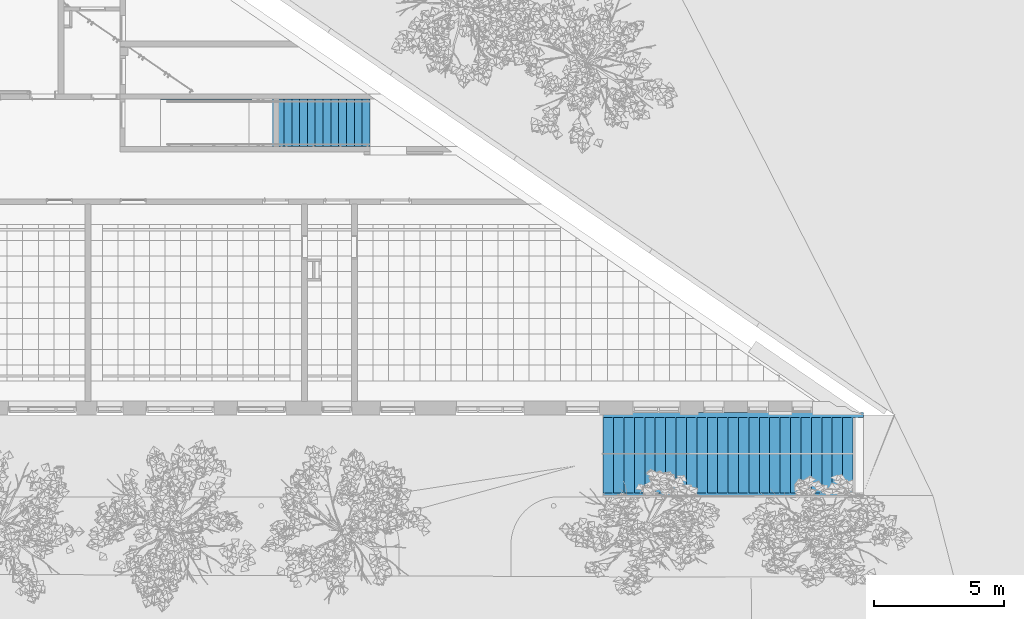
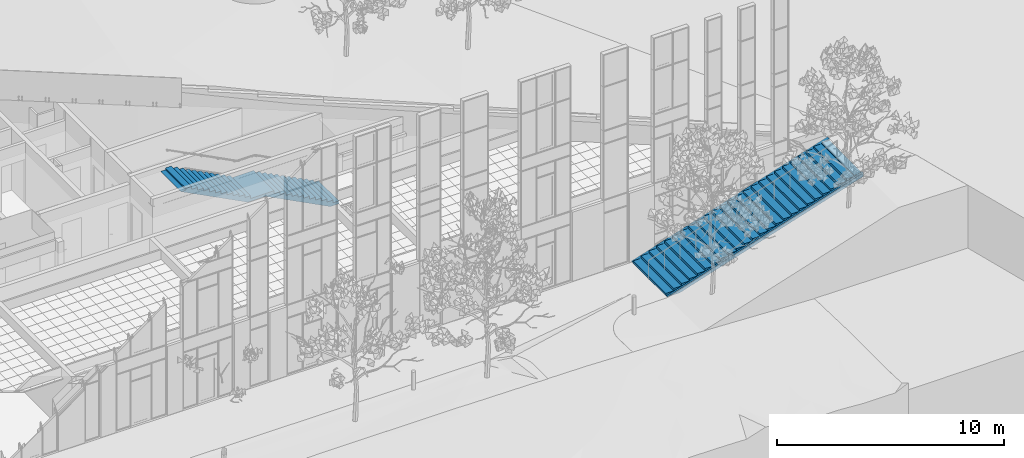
# One storey, part 141 of 246: 2 stairs.
"""IFC2X3 building model written with IfcOpenShell, lengths in millimetres."""

from ifc_helpers import new_model, entity, si_unit, converted_unit, derived_unit, money_unit, direction, frame, origin_with_axes, place, context, subcontext, project, spatial, faceted_brep, material, material_list, element, save


model = new_model("IFC2X3")

# Units and contexts
model_context = context("Model", 3, precision=0.01, world=origin_with_axes(), true_north=direction((0.0, 1.0)))
body_context = subcontext(model_context, "Body", "Model", "MODEL_VIEW")
ifc_project = project(units=[si_unit("LENGTHUNIT", "METRE", prefix="MILLI"), si_unit("AREAUNIT", "SQUARE_METRE"), si_unit("VOLUMEUNIT", "CUBIC_METRE"), converted_unit("PLANEANGLEUNIT", "DEGREE", entity("IfcPlaneAngleMeasure", 0.0174532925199), si_unit("PLANEANGLEUNIT", "RADIAN"), dimensions=[0, 0, 0, 0, 0, 0, 0]), si_unit("SOLIDANGLEUNIT", "STERADIAN"), money_unit("EUR"), converted_unit("TIMEUNIT", "Year", entity("IfcTimeMeasure", 31556926.0), si_unit("TIMEUNIT", "SECOND"), dimensions=[0, 0, 1, 0, 0, 0, 0]), si_unit("MASSUNIT", "GRAM", prefix="KILO"), si_unit("THERMODYNAMICTEMPERATUREUNIT", "DEGREE_CELSIUS"), si_unit("LUMINOUSINTENSITYUNIT", "LUMEN"), si_unit("ENERGYUNIT", "JOULE", prefix="MEGA"), derived_unit("THERMALCONDUCTANCEUNIT", [(si_unit("POWERUNIT", "WATT"), 1), (si_unit("LENGTHUNIT", "METRE"), -1), (si_unit("THERMODYNAMICTEMPERATUREUNIT", "KELVIN"), -1)]), derived_unit("SPECIFICHEATCAPACITYUNIT", [(si_unit("ENERGYUNIT", "JOULE"), 1), (si_unit("MASSUNIT", "GRAM", prefix="KILO"), -1), (si_unit("THERMODYNAMICTEMPERATUREUNIT", "KELVIN"), -1)]), derived_unit("MASSDENSITYUNIT", [(si_unit("MASSUNIT", "GRAM", prefix="KILO"), 1), (si_unit("VOLUMEUNIT", "CUBIC_METRE"), -1)])], contexts=[model_context])

# Site, building, storey
site_placement = place(None, origin_with_axes())
site = spatial("IfcSite", under=ifc_project, at=site_placement, Name="L.Koidula tn 11b", CompositionType="ELEMENT")
building_placement = place(site_placement, origin_with_axes())
building = spatial("IfcBuilding", under=site, at=building_placement, Name="Rakvere Riigigümnaasium", CompositionType="ELEMENT")
storey_placement = place(building_placement, origin_with_axes())
storey = spatial("IfcBuildingStorey", under=building, at=storey_placement, Name="1.korrus 0,00", CompositionType="ELEMENT", Elevation=0.0)

# Stairs
ifc_material = material(Name="Betoon")
stair_1_placement = place(storey_placement, frame((94552.4006498, 5070.45553887, -20.0), z_axis=(0.0, 0.0, 1.0), x_axis=(1.0, 0.0, 0.0)))
element("IfcStair", 1, at=stair_1_placement, inside=storey, material=ifc_material, Name="VTR-02", ShapeType="NOTDEFINED", context=body_context, shape_type="Brep", body=[
    faceted_brep([(9600.0, -184.397104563, 3120.0), (9680.0, -184.397104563, 3120.0), (9750.22448817, -184.397104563, 3120.0), (8.97952662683, -184.397104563, 0.0), (0.0, -184.397104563, 0.0), (0.0, -184.397104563, 128.0), (400.0, -184.397104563, 128.0), (400.0, -184.397104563, 256.0), (800.0, -184.397104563, 256.0), (800.0, -184.397104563, 384.0), (1200.0, -184.397104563, 384.0), (1200.0, -184.397104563, 512.0), (1600.0, -184.397104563, 512.0), (1600.0, -184.397104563, 640.0), (2000.0, -184.397104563, 640.0), (2000.0, -184.397104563, 768.0), (2400.0, -184.397104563, 768.0), (2400.0, -184.397104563, 896.0), (2800.0, -184.397104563, 896.0), (2800.0, -184.397104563, 1024.0), (3200.0, -184.397104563, 1024.0), (3200.0, -184.397104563, 1152.0), (3600.0, -184.397104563, 1152.0), (3600.0, -184.397104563, 1280.0), (4000.0, -184.397104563, 1280.0), (4000.0, -184.397104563, 1408.0), (4400.0, -184.397104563, 1408.0), (4400.0, -184.397104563, 1536.0), (4800.0, -184.397104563, 1536.0), (4800.0, -184.397104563, 1664.0), (5200.0, -184.397104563, 1664.0), (5200.0, -184.397104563, 1792.0), (5600.0, -184.397104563, 1792.0), (5600.0, -184.397104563, 1920.0), (6000.0, -184.397104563, 1920.0), (6000.0, -184.397104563, 2048.0), (6400.0, -184.397104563, 2048.0), (6400.0, -184.397104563, 2176.0), (6800.0, -184.397104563, 2176.0), (6800.0, -184.397104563, 2304.0), (7200.0, -184.397104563, 2304.0), (7200.0, -184.397104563, 2432.0), (7600.0, -184.397104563, 2432.0), (7600.0, -184.397104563, 2560.0), (8000.0, -184.397104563, 2560.0), (8000.0, -184.397104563, 2688.0), (8400.0, -184.397104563, 2688.0), (8400.0, -184.397104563, 2816.0), (8800.0, -184.397104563, 2816.0), (8800.0, -184.397104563, 2944.0), (9200.0, -184.397104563, 2944.0), (9200.0, -184.397104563, 3072.0), (9600.0, -184.397104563, 3072.0), (9600.0, -3084.0, 3120.0), (9680.0, -3084.0, 3120.0), (9750.22448817, -3084.0, 3120.0), (10000.0, -3084.0, 3120.0), (10000.0, -184.397104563, 3120.0), (10000.0, -184.397104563, 3200.0), (10000.0, 0.0, 3200.0), (8.97952662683, 0.0, 0.0), (656.22023742, -3184.0, 0.0), (8.97952662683, -3184.0, 0.0), (8.97952662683, -3084.0, 0.0), (0.0, -3084.0, 0.0), (656.22023742, 0.0, 0.0), (0.0, -3084.0, 128.0), (400.0, -3084.0, 128.0), (400.0, -3084.0, 256.0), (800.0, -3084.0, 256.0), (800.0, -3084.0, 384.0), (1200.0, -3084.0, 384.0), (1200.0, -3084.0, 512.0), (1600.0, -3084.0, 512.0), (1600.0, -3084.0, 640.0), (2000.0, -3084.0, 640.0), (2000.0, -3084.0, 768.0), (2400.0, -3084.0, 768.0), (2400.0, -3084.0, 896.0), (2800.0, -3084.0, 896.0), (2800.0, -3084.0, 1024.0), (3200.0, -3084.0, 1024.0), (3200.0, -3084.0, 1152.0), (3600.0, -3084.0, 1152.0), (3600.0, -3084.0, 1280.0), (4000.0, -3084.0, 1280.0), (4000.0, -3084.0, 1408.0), (4400.0, -3084.0, 1408.0), (4400.0, -3084.0, 1536.0), (4800.0, -3084.0, 1536.0), (4800.0, -3084.0, 1664.0), (5200.0, -3084.0, 1664.0), (5200.0, -3084.0, 1792.0), (5600.0, -3084.0, 1792.0), (5600.0, -3084.0, 1920.0), (6000.0, -3084.0, 1920.0), (6000.0, -3084.0, 2048.0), (6400.0, -3084.0, 2048.0), (6400.0, -3084.0, 2176.0), (6800.0, -3084.0, 2176.0), (6800.0, -3084.0, 2304.0), (7200.0, -3084.0, 2304.0), (7200.0, -3084.0, 2432.0), (7600.0, -3084.0, 2432.0), (7600.0, -3084.0, 2560.0), (8000.0, -3084.0, 2560.0), (8000.0, -3084.0, 2688.0), (8400.0, -3084.0, 2688.0), (8400.0, -3084.0, 2816.0), (8800.0, -3084.0, 2816.0), (8800.0, -3084.0, 2944.0), (9200.0, -3084.0, 2944.0), (9200.0, -3084.0, 3072.0), (9600.0, -3084.0, 3072.0), (10000.0, -3084.0, 3200.0), (10000.0, -3184.0, 3200.0), (10000.0, -3184.0, 2990.00952403), (10000.0, 0.0, 2990.00952403), (800.0, 0.0, 46.0095240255), (720.0, 0.0, 20.4095240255), (9900.0, 0.0, 2958.00952403), (9800.0, 0.0, 2926.00952403), (9700.0, 0.0, 2894.00952403), (9600.0, 0.0, 2862.00952403), (9520.0, 0.0, 2836.40952403), (9440.0, 0.0, 2810.80952403), (9360.0, 0.0, 2785.20952403), (9280.0, 0.0, 2759.60952403), (9200.0, 0.0, 2734.00952403), (9120.0, 0.0, 2708.40952403), (9040.0, 0.0, 2682.80952403), (8960.0, 0.0, 2657.20952403), (8880.0, 0.0, 2631.60952403), (8800.0, 0.0, 2606.00952403), (8720.0, 0.0, 2580.40952403), (8640.0, 0.0, 2554.80952403), (8560.0, 0.0, 2529.20952403), (8480.0, 0.0, 2503.60952403), (8400.0, 0.0, 2478.00952403), (8320.0, 0.0, 2452.40952403), (8240.0, 0.0, 2426.80952403), (8160.0, 0.0, 2401.20952403), (8080.0, 0.0, 2375.60952403), (8000.0, 0.0, 2350.00952403), (7920.0, 0.0, 2324.40952403), (7840.0, 0.0, 2298.80952403), (7760.0, 0.0, 2273.20952403), (7680.0, 0.0, 2247.60952403), (7600.0, 0.0, 2222.00952403), (7520.0, 0.0, 2196.40952403), (7440.0, 0.0, 2170.80952403), (7360.0, 0.0, 2145.20952403), (7280.0, 0.0, 2119.60952403), (7200.0, 0.0, 2094.00952403), (7100.0, 0.0, 2062.00952403), (7000.0, 0.0, 2030.00952403), (6900.0, 0.0, 1998.00952403), (6800.0, 0.0, 1966.00952403), (6720.0, 0.0, 1940.40952403), (6640.0, 0.0, 1914.80952403), (6560.0, 0.0, 1889.20952403), (6480.0, 0.0, 1863.60952403), (6400.0, 0.0, 1838.00952403), (6320.0, 0.0, 1812.40952403), (6240.0, 0.0, 1786.80952403), (6160.0, 0.0, 1761.20952403), (6080.0, 0.0, 1735.60952403), (6000.0, 0.0, 1710.00952403), (5900.0, 0.0, 1678.00952403), (5800.0, 0.0, 1646.00952403), (5700.0, 0.0, 1614.00952403), (5600.0, 0.0, 1582.00952403), (5520.0, 0.0, 1556.40952403), (5440.0, 0.0, 1530.80952403), (5360.0, 0.0, 1505.20952403), (5280.0, 0.0, 1479.60952403), (5200.0, 0.0, 1454.00952403), (5100.0, 0.0, 1422.00952403), (5000.0, 0.0, 1390.00952403), (4900.0, 0.0, 1358.00952403), (4800.0, 0.0, 1326.00952403), (4720.0, 0.0, 1300.40952403), (4640.0, 0.0, 1274.80952403), (4560.0, 0.0, 1249.20952403), (4480.0, 0.0, 1223.60952403), (4400.0, 0.0, 1198.00952403), (4320.0, 0.0, 1172.40952403), (4240.0, 0.0, 1146.80952403), (4160.0, 0.0, 1121.20952403), (4080.0, 0.0, 1095.60952403), (4000.0, 0.0, 1070.00952403), (3920.0, 0.0, 1044.40952403), (3840.0, 0.0, 1018.80952403), (3760.0, 0.0, 993.209524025), (3680.0, 0.0, 967.609524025), (3600.0, 0.0, 942.009524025), (3500.0, 0.0, 910.009524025), (3400.0, 0.0, 878.009524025), (3300.0, 0.0, 846.009524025), (3200.0, 0.0, 814.009524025), (3100.0, 0.0, 782.009524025), (3000.0, 0.0, 750.009524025), (2900.0, 0.0, 718.009524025), (2800.0, 0.0, 686.009524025), (2720.0, 0.0, 660.409524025), (2640.0, 0.0, 634.809524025), (2560.0, 0.0, 609.209524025), (2480.0, 0.0, 583.609524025), (2400.0, 0.0, 558.009524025), (2320.0, 0.0, 532.409524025), (2240.0, 0.0, 506.809524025), (2160.0, 0.0, 481.209524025), (2080.0, 0.0, 455.609524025), (2000.0, 0.0, 430.009524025), (1920.0, 0.0, 404.409524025), (1840.0, 0.0, 378.809524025), (1760.0, 0.0, 353.209524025), (1680.0, 0.0, 327.609524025), (1600.0, 0.0, 302.009524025), (1520.0, 0.0, 276.409524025), (1440.0, 0.0, 250.809524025), (1360.0, 0.0, 225.209524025), (1280.0, 0.0, 199.609524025), (1200.0, 0.0, 174.009524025), (1100.0, 0.0, 142.009524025), (1000.0, 0.0, 110.009524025), (900.0, 0.0, 78.0095240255), (9900.0, -3184.0, 2958.00952403), (720.0, -3184.0, 20.4095240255), (800.0, -3184.0, 46.0095240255), (900.0, -3184.0, 78.0095240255), (1000.0, -3184.0, 110.009524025), (1100.0, -3184.0, 142.009524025), (1200.0, -3184.0, 174.009524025), (1280.0, -3184.0, 199.609524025), (1360.0, -3184.0, 225.209524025), (1440.0, -3184.0, 250.809524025), (1520.0, -3184.0, 276.409524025), (1600.0, -3184.0, 302.009524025), (1680.0, -3184.0, 327.609524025), (1760.0, -3184.0, 353.209524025), (1840.0, -3184.0, 378.809524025), (1920.0, -3184.0, 404.409524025), (2000.0, -3184.0, 430.009524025), (2080.0, -3184.0, 455.609524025), (2160.0, -3184.0, 481.209524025), (2240.0, -3184.0, 506.809524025), (2320.0, -3184.0, 532.409524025), (2400.0, -3184.0, 558.009524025), (2480.0, -3184.0, 583.609524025), (2560.0, -3184.0, 609.209524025), (2640.0, -3184.0, 634.809524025), (2720.0, -3184.0, 660.409524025), (2800.0, -3184.0, 686.009524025), (2900.0, -3184.0, 718.009524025), (3000.0, -3184.0, 750.009524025), (3100.0, -3184.0, 782.009524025), (3200.0, -3184.0, 814.009524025), (3300.0, -3184.0, 846.009524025), (3400.0, -3184.0, 878.009524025), (3500.0, -3184.0, 910.009524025), (3600.0, -3184.0, 942.009524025), (3680.0, -3184.0, 967.609524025), (3760.0, -3184.0, 993.209524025), (3840.0, -3184.0, 1018.80952403), (3920.0, -3184.0, 1044.40952403), (4000.0, -3184.0, 1070.00952403), (4080.0, -3184.0, 1095.60952403), (4160.0, -3184.0, 1121.20952403), (4240.0, -3184.0, 1146.80952403), (4320.0, -3184.0, 1172.40952403), (4400.0, -3184.0, 1198.00952403), (4480.0, -3184.0, 1223.60952403), (4560.0, -3184.0, 1249.20952403), (4640.0, -3184.0, 1274.80952403), (4720.0, -3184.0, 1300.40952403), (4800.0, -3184.0, 1326.00952403), (4900.0, -3184.0, 1358.00952403), (5000.0, -3184.0, 1390.00952403), (5100.0, -3184.0, 1422.00952403), (5200.0, -3184.0, 1454.00952403), (5280.0, -3184.0, 1479.60952403), (5360.0, -3184.0, 1505.20952403), (5440.0, -3184.0, 1530.80952403), (5520.0, -3184.0, 1556.40952403), (5600.0, -3184.0, 1582.00952403), (5700.0, -3184.0, 1614.00952403), (5800.0, -3184.0, 1646.00952403), (5900.0, -3184.0, 1678.00952403), (6000.0, -3184.0, 1710.00952403), (6080.0, -3184.0, 1735.60952403), (6160.0, -3184.0, 1761.20952403), (6240.0, -3184.0, 1786.80952403), (6320.0, -3184.0, 1812.40952403), (6400.0, -3184.0, 1838.00952403), (6480.0, -3184.0, 1863.60952403), (6560.0, -3184.0, 1889.20952403), (6640.0, -3184.0, 1914.80952403), (6720.0, -3184.0, 1940.40952403), (6800.0, -3184.0, 1966.00952403), (6900.0, -3184.0, 1998.00952403), (7000.0, -3184.0, 2030.00952403), (7100.0, -3184.0, 2062.00952403), (7200.0, -3184.0, 2094.00952403), (7280.0, -3184.0, 2119.60952403), (7360.0, -3184.0, 2145.20952403), (7440.0, -3184.0, 2170.80952403), (7520.0, -3184.0, 2196.40952403), (7600.0, -3184.0, 2222.00952403), (7680.0, -3184.0, 2247.60952403), (7760.0, -3184.0, 2273.20952403), (7840.0, -3184.0, 2298.80952403), (7920.0, -3184.0, 2324.40952403), (8000.0, -3184.0, 2350.00952403), (8080.0, -3184.0, 2375.60952403), (8160.0, -3184.0, 2401.20952403), (8240.0, -3184.0, 2426.80952403), (8320.0, -3184.0, 2452.40952403), (8400.0, -3184.0, 2478.00952403), (8480.0, -3184.0, 2503.60952403), (8560.0, -3184.0, 2529.20952403), (8640.0, -3184.0, 2554.80952403), (8720.0, -3184.0, 2580.40952403), (8800.0, -3184.0, 2606.00952403), (8880.0, -3184.0, 2631.60952403), (8960.0, -3184.0, 2657.20952403), (9040.0, -3184.0, 2682.80952403), (9120.0, -3184.0, 2708.40952403), (9200.0, -3184.0, 2734.00952403), (9280.0, -3184.0, 2759.60952403), (9360.0, -3184.0, 2785.20952403), (9440.0, -3184.0, 2810.80952403), (9520.0, -3184.0, 2836.40952403), (9600.0, -3184.0, 2862.00952403), (9700.0, -3184.0, 2894.00952403), (9800.0, -3184.0, 2926.00952403)], [[[0, 1, 2, 3, 4, 5, 6, 7, 8, 9, 10, 11, 12, 13, 14, 15, 16, 17, 18, 19, 20, 21, 22, 23, 24, 25, 26, 27, 28, 29, 30, 31, 32, 33, 34, 35, 36, 37, 38, 39, 40, 41, 42, 43, 44, 45, 46, 47, 48, 49, 50, 51, 52]], [[1, 0, 53, 54, 55, 56, 57, 2]], [[3, 2, 58, 59, 60]], [[61, 62, 63, 64, 4, 3, 60, 65]], [[5, 4, 64, 66]], [[6, 5, 66, 67]], [[7, 6, 67, 68]], [[8, 7, 68, 69]], [[9, 8, 69, 70]], [[10, 9, 70, 71]], [[11, 10, 71, 72]], [[12, 11, 72, 73]], [[13, 12, 73, 74]], [[14, 13, 74, 75]], [[15, 14, 75, 76]], [[16, 15, 76, 77]], [[17, 16, 77, 78]], [[18, 17, 78, 79]], [[19, 18, 79, 80]], [[20, 19, 80, 81]], [[21, 20, 81, 82]], [[22, 21, 82, 83]], [[23, 22, 83, 84]], [[24, 23, 84, 85]], [[25, 24, 85, 86]], [[26, 25, 86, 87]], [[27, 26, 87, 88]], [[28, 27, 88, 89]], [[29, 28, 89, 90]], [[30, 29, 90, 91]], [[31, 30, 91, 92]], [[32, 31, 92, 93]], [[33, 32, 93, 94]], [[34, 33, 94, 95]], [[35, 34, 95, 96]], [[36, 35, 96, 97]], [[37, 36, 97, 98]], [[38, 37, 98, 99]], [[39, 38, 99, 100]], [[40, 39, 100, 101]], [[41, 40, 101, 102]], [[42, 41, 102, 103]], [[43, 42, 103, 104]], [[44, 43, 104, 105]], [[45, 44, 105, 106]], [[46, 45, 106, 107]], [[47, 46, 107, 108]], [[48, 47, 108, 109]], [[49, 48, 109, 110]], [[50, 49, 110, 111]], [[51, 50, 111, 112]], [[52, 51, 112, 113]], [[53, 0, 52, 113]], [[54, 53, 113, 112, 111, 110, 109, 108, 107, 106, 105, 104, 103, 102, 101, 100, 99, 98, 97, 96, 95, 94, 93, 92, 91, 90, 89, 88, 87, 86, 85, 84, 83, 82, 81, 80, 79, 78, 77, 76, 75, 74, 73, 72, 71, 70, 69, 68, 67, 66, 64, 63, 55]], [[56, 55, 114]], [[57, 56, 114, 115, 116, 117, 59, 58]], [[2, 57, 58]], [[118, 119, 65, 60, 59, 117, 120, 121, 122, 123, 124, 125, 126, 127, 128, 129, 130, 131, 132, 133, 134, 135, 136, 137, 138, 139, 140, 141, 142, 143, 144, 145, 146, 147, 148, 149, 150, 151, 152, 153, 154, 155, 156, 157, 158, 159, 160, 161, 162, 163, 164, 165, 166, 167, 168, 169, 170, 171, 172, 173, 174, 175, 176, 177, 178, 179, 180, 181, 182, 183, 184, 185, 186, 187, 188, 189, 190, 191, 192, 193, 194, 195, 196, 197, 198, 199, 200, 201, 202, 203, 204, 205, 206, 207, 208, 209, 210, 211, 212, 213, 214, 215, 216, 217, 218, 219, 220, 221, 222, 223, 224, 225, 226]], [[227, 116, 115, 62, 61, 228, 229, 230, 231, 232, 233, 234, 235, 236, 237, 238, 239, 240, 241, 242, 243, 244, 245, 246, 247, 248, 249, 250, 251, 252, 253, 254, 255, 256, 257, 258, 259, 260, 261, 262, 263, 264, 265, 266, 267, 268, 269, 270, 271, 272, 273, 274, 275, 276, 277, 278, 279, 280, 281, 282, 283, 284, 285, 286, 287, 288, 289, 290, 291, 292, 293, 294, 295, 296, 297, 298, 299, 300, 301, 302, 303, 304, 305, 306, 307, 308, 309, 310, 311, 312, 313, 314, 315, 316, 317, 318, 319, 320, 321, 322, 323, 324, 325, 326, 327, 328, 329, 330, 331, 332, 333, 334, 335]], [[115, 114, 55, 63, 62]], [[61, 65, 119, 228]], [[120, 117, 116, 227]], [[228, 119, 118, 229]], [[335, 121, 120, 227]], [[334, 122, 121, 335]], [[333, 123, 122, 334]], [[332, 124, 123, 333]], [[331, 125, 124, 332]], [[330, 126, 125, 331]], [[329, 127, 126, 330]], [[328, 128, 127, 329]], [[327, 129, 128, 328]], [[326, 130, 129, 327]], [[325, 131, 130, 326]], [[324, 132, 131, 325]], [[323, 133, 132, 324]], [[322, 134, 133, 323]], [[321, 135, 134, 322]], [[320, 136, 135, 321]], [[319, 137, 136, 320]], [[318, 138, 137, 319]], [[317, 139, 138, 318]], [[316, 140, 139, 317]], [[315, 141, 140, 316]], [[314, 142, 141, 315]], [[313, 143, 142, 314]], [[312, 144, 143, 313]], [[311, 145, 144, 312]], [[310, 146, 145, 311]], [[309, 147, 146, 310]], [[308, 148, 147, 309]], [[307, 149, 148, 308]], [[306, 150, 149, 307]], [[305, 151, 150, 306]], [[304, 152, 151, 305]], [[303, 153, 152, 304]], [[302, 154, 153, 303]], [[301, 155, 154, 302]], [[300, 156, 155, 301]], [[299, 157, 156, 300]], [[298, 158, 157, 299]], [[297, 159, 158, 298]], [[296, 160, 159, 297]], [[295, 161, 160, 296]], [[294, 162, 161, 295]], [[293, 163, 162, 294]], [[292, 164, 163, 293]], [[291, 165, 164, 292]], [[290, 166, 165, 291]], [[289, 167, 166, 290]], [[288, 168, 167, 289]], [[287, 169, 168, 288]], [[286, 170, 169, 287]], [[285, 171, 170, 286]], [[284, 172, 171, 285]], [[283, 173, 172, 284]], [[282, 174, 173, 283]], [[281, 175, 174, 282]], [[280, 176, 175, 281]], [[279, 177, 176, 280]], [[278, 178, 177, 279]], [[277, 179, 178, 278]], [[276, 180, 179, 277]], [[275, 181, 180, 276]], [[274, 182, 181, 275]], [[273, 183, 182, 274]], [[272, 184, 183, 273]], [[271, 185, 184, 272]], [[270, 186, 185, 271]], [[269, 187, 186, 270]], [[268, 188, 187, 269]], [[267, 189, 188, 268]], [[266, 190, 189, 267]], [[265, 191, 190, 266]], [[264, 192, 191, 265]], [[263, 193, 192, 264]], [[262, 194, 193, 263]], [[261, 195, 194, 262]], [[260, 196, 195, 261]], [[259, 197, 196, 260]], [[258, 198, 197, 259]], [[257, 199, 198, 258]], [[256, 200, 199, 257]], [[255, 201, 200, 256]], [[254, 202, 201, 255]], [[253, 203, 202, 254]], [[252, 204, 203, 253]], [[251, 205, 204, 252]], [[250, 206, 205, 251]], [[249, 207, 206, 250]], [[248, 208, 207, 249]], [[247, 209, 208, 248]], [[246, 210, 209, 247]], [[245, 211, 210, 246]], [[244, 212, 211, 245]], [[243, 213, 212, 244]], [[242, 214, 213, 243]], [[241, 215, 214, 242]], [[240, 216, 215, 241]], [[239, 217, 216, 240]], [[238, 218, 217, 239]], [[237, 219, 218, 238]], [[236, 220, 219, 237]], [[235, 221, 220, 236]], [[234, 222, 221, 235]], [[233, 223, 222, 234]], [[232, 224, 223, 233]], [[231, 225, 224, 232]], [[230, 226, 225, 231]], [[229, 118, 226, 230]]]),
])
ifc_material_list = material_list([ifc_material, ifc_material, ifc_material])
stair_2_placement = place(storey_placement, frame((85589.9999916, 17110.4555123, 0.0), z_axis=(0.0, 0.0, 1.0), x_axis=(-1.0, 0.0, 0.0)))
element("IfcStair", 2, at=stair_2_placement, inside=storey, material=ifc_material_list, Name="TR-03", ShapeType="NOTDEFINED", context=body_context, shape_type="Brep", body=[
    faceted_brep([(3300.0, 0.0, 1705.0), (3300.0, 1809.99920337, 1705.0), (3000.0, 1809.99920337, 1705.0), (3000.0, 0.0, 1705.0), (3300.0, 0.0, 1710.0), (3300.0, 1809.99920337, 1710.0), (3300.0, 1809.99920337, 1479.8827466), (3200.0, 1809.99920337, 1428.21607993), (3100.0, 1809.99920337, 1376.54941327), (3000.0, 1809.99920337, 1324.8827466), (2925.0, 1809.99920337, 1286.1327466), (2850.0, 1809.99920337, 1247.3827466), (2775.0, 1809.99920337, 1208.6327466), (2700.0, 1809.99920337, 1169.8827466), (2600.0, 1809.99920337, 1118.21607993), (2500.0, 1809.99920337, 1066.54941327), (2400.0, 1809.99920337, 1014.8827466), (2300.0, 1809.99920337, 963.216079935), (2200.0, 1809.99920337, 911.549413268), (2100.0, 1809.99920337, 859.882746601), (2025.0, 1809.99920337, 821.132746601), (1950.0, 1809.99920337, 782.382746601), (1875.0, 1809.99920337, 743.632746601), (1800.0, 1809.99920337, 704.882746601), (1725.0, 1809.99920337, 666.132746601), (1650.0, 1809.99920337, 627.382746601), (1575.0, 1809.99920337, 588.632746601), (1500.0, 1809.99920337, 549.882746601), (1400.0, 1809.99920337, 498.216079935), (1300.0, 1809.99920337, 446.549413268), (1200.0, 1809.99920337, 394.882746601), (1125.0, 1809.99920337, 356.132746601), (1100.0, 1809.99920337, 343.216079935), (1050.0, 1809.99920337, 317.382746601), (1000.0, 1809.99920337, 291.549413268), (975.0, 1809.99920337, 278.632746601), (900.0, 1809.99920337, 239.882746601), (825.0, 1809.99920337, 201.132746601), (800.0, 1809.99920337, 188.216079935), (750.0, 1809.99920337, 162.382746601), (700.0, 1809.99920337, 136.549413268), (675.0, 1809.99920337, 123.632746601), (600.0, 1809.99920337, 84.8827466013), (525.0, 1809.99920337, 46.1327466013), (500.0, 1809.99920337, 33.2160799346), (450.0, 1809.99920337, 7.38274660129), (435.71081303, 1809.99920337, 0.0), (0.0, 1809.99920337, 0.0), (0.0, 1809.99920337, 155.0), (300.0, 1809.99920337, 155.0), (300.0, 1809.99920337, 310.0), (600.0, 1809.99920337, 310.0), (600.0, 1809.99920337, 465.0), (900.0, 1809.99920337, 465.0), (900.0, 1809.99920337, 620.0), (1200.0, 1809.99920337, 620.0), (1200.0, 1809.99920337, 775.0), (1500.0, 1809.99920337, 775.0), (1500.0, 1809.99920337, 930.0), (1800.0, 1809.99920337, 930.0), (1800.0, 1809.99920337, 1085.0), (2100.0, 1809.99920337, 1085.0), (2100.0, 1809.99920337, 1240.0), (2400.0, 1809.99920337, 1240.0), (2400.0, 1809.99920337, 1395.0), (2700.0, 1809.99920337, 1395.0), (2700.0, 1809.99920337, 1550.0), (3000.0, 1809.99920337, 1550.0), (3745.38823238, 1809.99920337, 1710.0), (3000.0, 0.0, 1550.0), (2700.0, 0.0, 1550.0), (2700.0, 0.0, 1395.0), (2400.0, 0.0, 1395.0), (2400.0, 0.0, 1240.0), (2100.0, 0.0, 1240.0), (2100.0, 0.0, 1085.0), (1800.0, 0.0, 1085.0), (1800.0, 0.0, 930.0), (1500.0, 0.0, 930.0), (1500.0, 0.0, 775.0), (1200.0, 0.0, 775.0), (1200.0, 0.0, 620.0), (900.0, 0.0, 620.0), (900.0, 0.0, 465.0), (600.0, 0.0, 465.0), (600.0, 0.0, 310.0), (300.0, 0.0, 310.0), (300.0, 0.0, 155.0), (0.0, 0.0, 155.0), (0.0, 0.0, 0.0), (435.71081303, 0.0, 0.0), (450.0, 0.0, 7.38274660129), (500.0, 0.0, 33.2160799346), (525.0, 0.0, 46.1327466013), (600.0, 0.0, 84.8827466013), (675.0, 0.0, 123.632746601), (700.0, 0.0, 136.549413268), (750.0, 0.0, 162.382746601), (800.0, 0.0, 188.216079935), (825.0, 0.0, 201.132746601), (900.0, 0.0, 239.882746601), (975.0, 0.0, 278.632746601), (1000.0, 0.0, 291.549413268), (1050.0, 0.0, 317.382746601), (1100.0, 0.0, 343.216079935), (1125.0, 0.0, 356.132746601), (1200.0, 0.0, 394.882746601), (1300.0, 0.0, 446.549413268), (1400.0, 0.0, 498.216079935), (1500.0, 0.0, 549.882746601), (1575.0, 0.0, 588.632746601), (1650.0, 0.0, 627.382746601), (1725.0, 0.0, 666.132746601), (1800.0, 0.0, 704.882746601), (1875.0, 0.0, 743.632746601), (1950.0, 0.0, 782.382746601), (2025.0, 0.0, 821.132746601), (2100.0, 0.0, 859.882746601), (2200.0, 0.0, 911.549413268), (2300.0, 0.0, 963.216079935), (2400.0, 0.0, 1014.8827466), (2500.0, 0.0, 1066.54941327), (2600.0, 0.0, 1118.21607993), (2700.0, 0.0, 1169.8827466), (2775.0, 0.0, 1208.6327466), (2850.0, 0.0, 1247.3827466), (2925.0, 0.0, 1286.1327466), (3000.0, 0.0, 1324.8827466), (3100.0, 0.0, 1376.54941327), (3200.0, 0.0, 1428.21607993), (3300.0, 0.0, 1479.8827466), (3745.38823238, 0.0, 1710.0)], [[[0, 1, 2, 3]], [[1, 0, 4, 5]], [[6, 7, 8, 9, 10, 11, 12, 13, 14, 15, 16, 17, 18, 19, 20, 21, 22, 23, 24, 25, 26, 27, 28, 29, 30, 31, 32, 33, 34, 35, 36, 37, 38, 39, 40, 41, 42, 43, 44, 45, 46, 47, 48, 49, 50, 51, 52, 53, 54, 55, 56, 57, 58, 59, 60, 61, 62, 63, 64, 65, 66, 67, 2, 1, 5, 68]], [[3, 2, 67, 69]], [[0, 3, 69, 70, 71, 72, 73, 74, 75, 76, 77, 78, 79, 80, 81, 82, 83, 84, 85, 86, 87, 88, 89, 90, 91, 92, 93, 94, 95, 96, 97, 98, 99, 100, 101, 102, 103, 104, 105, 106, 107, 108, 109, 110, 111, 112, 113, 114, 115, 116, 117, 118, 119, 120, 121, 122, 123, 124, 125, 126, 127, 128, 129, 130, 131, 4]], [[5, 4, 131, 68]], [[130, 129, 7, 6, 68, 131]], [[128, 8, 7, 129]], [[127, 9, 8, 128]], [[126, 10, 9, 127]], [[125, 11, 10, 126]], [[124, 12, 11, 125]], [[123, 13, 12, 124]], [[122, 14, 13, 123]], [[121, 15, 14, 122]], [[120, 16, 15, 121]], [[119, 17, 16, 120]], [[118, 18, 17, 119]], [[117, 19, 18, 118]], [[116, 20, 19, 117]], [[115, 21, 20, 116]], [[114, 22, 21, 115]], [[113, 23, 22, 114]], [[112, 24, 23, 113]], [[111, 25, 24, 112]], [[110, 26, 25, 111]], [[109, 27, 26, 110]], [[108, 28, 27, 109]], [[107, 29, 28, 108]], [[106, 30, 29, 107]], [[105, 31, 30, 106]], [[104, 32, 31, 105]], [[103, 33, 32, 104]], [[102, 34, 33, 103]], [[101, 35, 34, 102]], [[100, 36, 35, 101]], [[99, 37, 36, 100]], [[98, 38, 37, 99]], [[97, 39, 38, 98]], [[96, 40, 39, 97]], [[95, 41, 40, 96]], [[94, 42, 41, 95]], [[93, 43, 42, 94]], [[92, 44, 43, 93]], [[91, 45, 44, 92]], [[90, 46, 45, 91]], [[89, 47, 46, 90]], [[47, 89, 88, 48]], [[48, 88, 87, 49]], [[86, 50, 49, 87]], [[50, 86, 85, 51]], [[84, 52, 51, 85]], [[52, 84, 83, 53]], [[82, 54, 53, 83]], [[54, 82, 81, 55]], [[80, 56, 55, 81]], [[56, 80, 79, 57]], [[78, 58, 57, 79]], [[58, 78, 77, 59]], [[76, 60, 59, 77]], [[60, 76, 75, 61]], [[74, 62, 61, 75]], [[62, 74, 73, 63]], [[72, 64, 63, 73]], [[64, 72, 71, 65]], [[70, 66, 65, 71]], [[66, 70, 69, 67]]]),
    faceted_brep([(3300.0, 1809.99920337, 1710.0), (3300.0, 0.0, 1710.0), (3300.0, 0.0, 1860.0), (3300.0, 1809.99920337, 1860.0), (3600.0, 1809.99920337, 1710.0), (4200.0, 1809.99920337, 1710.0), (4500.0, 1809.99920337, 1710.0), (4500.0, 0.0, 1710.0), (4200.0, 0.0, 1710.0), (3600.0, 0.0, 1710.0), (3600.0, 0.0, 1860.0), (4200.0, 0.0, 1860.0), (4500.0, 0.0, 1860.0), (4500.0, 1809.99920337, 1860.0), (4200.0, 1809.99920337, 1860.0), (3600.0, 1809.99920337, 1860.0)], [[[0, 1, 2, 3]], [[0, 4, 5, 6, 7, 8, 9, 1]], [[1, 9, 10, 2]], [[3, 2, 10, 11, 12, 13, 14, 15]], [[4, 0, 3, 15]], [[5, 4, 15, 14]], [[6, 5, 14, 13]], [[7, 6, 13, 12]], [[8, 7, 12, 11]], [[9, 8, 11, 10]]]),
    faceted_brep([(7800.0, 0.0, 3465.0), (7800.0, 1809.99920337, 3465.0), (7800.0, 1809.99920337, 3565.0), (7800.0, 0.0, 3565.0), (8042.16242593, 0.0, 3465.0), (8042.16242593, 1809.99920337, 3465.0), (7800.0, 1809.99920337, 3339.8827466), (7700.0, 1809.99920337, 3288.21607993), (7600.0, 1809.99920337, 3236.54941327), (7500.0, 1809.99920337, 3184.8827466), (7425.0, 1809.99920337, 3146.1327466), (7350.0, 1809.99920337, 3107.3827466), (7275.0, 1809.99920337, 3068.6327466), (7200.0, 1809.99920337, 3029.8827466), (7100.0, 1809.99920337, 2978.21607993), (7000.0, 1809.99920337, 2926.54941327), (6900.0, 1809.99920337, 2874.8827466), (6825.0, 1809.99920337, 2836.1327466), (6750.0, 1809.99920337, 2797.3827466), (6675.0, 1809.99920337, 2758.6327466), (6600.0, 1809.99920337, 2719.8827466), (6500.0, 1809.99920337, 2668.21607993), (6400.0, 1809.99920337, 2616.54941327), (6300.0, 1809.99920337, 2564.8827466), (6200.0, 1809.99920337, 2513.21607993), (6100.0, 1809.99920337, 2461.54941327), (6000.0, 1809.99920337, 2409.8827466), (5900.0, 1809.99920337, 2358.21607993), (5800.0, 1809.99920337, 2306.54941327), (5700.0, 1809.99920337, 2254.8827466), (5600.0, 1809.99920337, 2203.21607993), (5500.0, 1809.99920337, 2151.54941327), (5400.0, 1809.99920337, 2099.8827466), (5325.0, 1809.99920337, 2061.1327466), (5250.0, 1809.99920337, 2022.3827466), (5175.0, 1809.99920337, 1983.6327466), (5100.0, 1809.99920337, 1944.8827466), (5000.0, 1809.99920337, 1893.21607993), (4900.0, 1809.99920337, 1841.54941327), (4800.0, 1809.99920337, 1789.8827466), (4700.0, 1809.99920337, 1738.21607993), (4645.38823238, 1809.99920337, 1710.0), (4500.0, 1809.99920337, 1710.0), (4500.0, 1809.99920337, 2015.0), (4800.0, 1809.99920337, 2015.0), (4800.0, 1809.99920337, 2170.0), (5100.0, 1809.99920337, 2170.0), (5100.0, 1809.99920337, 2325.0), (5400.0, 1809.99920337, 2325.0), (5400.0, 1809.99920337, 2480.0), (5700.0, 1809.99920337, 2480.0), (5700.0, 1809.99920337, 2635.0), (6000.0, 1809.99920337, 2635.0), (6000.0, 1809.99920337, 2790.0), (6300.0, 1809.99920337, 2790.0), (6300.0, 1809.99920337, 2945.0), (6600.0, 1809.99920337, 2945.0), (6600.0, 1809.99920337, 3100.0), (6900.0, 1809.99920337, 3100.0), (6900.0, 1809.99920337, 3255.0), (7200.0, 1809.99920337, 3255.0), (7200.0, 1809.99920337, 3410.0), (7500.0, 1809.99920337, 3410.0), (7500.0, 1809.99920337, 3565.0), (7500.0, 0.0, 3565.0), (7500.0, 0.0, 3410.0), (7200.0, 0.0, 3410.0), (7200.0, 0.0, 3255.0), (6900.0, 0.0, 3255.0), (6900.0, 0.0, 3100.0), (6600.0, 0.0, 3100.0), (6600.0, 0.0, 2945.0), (6300.0, 0.0, 2945.0), (6300.0, 0.0, 2790.0), (6000.0, 0.0, 2790.0), (6000.0, 0.0, 2635.0), (5700.0, 0.0, 2635.0), (5700.0, 0.0, 2480.0), (5400.0, 0.0, 2480.0), (5400.0, 0.0, 2325.0), (5100.0, 0.0, 2325.0), (5100.0, 0.0, 2170.0), (4800.0, 0.0, 2170.0), (4800.0, 0.0, 2015.0), (4500.0, 0.0, 2015.0), (4500.0, 0.0, 1710.0), (4645.38823238, 0.0, 1710.0), (4700.0, 0.0, 1738.21607993), (4800.0, 0.0, 1789.8827466), (4900.0, 0.0, 1841.54941327), (5000.0, 0.0, 1893.21607993), (5100.0, 0.0, 1944.8827466), (5175.0, 0.0, 1983.6327466), (5250.0, 0.0, 2022.3827466), (5325.0, 0.0, 2061.1327466), (5400.0, 0.0, 2099.8827466), (5500.0, 0.0, 2151.54941327), (5600.0, 0.0, 2203.21607993), (5700.0, 0.0, 2254.8827466), (5800.0, 0.0, 2306.54941327), (5900.0, 0.0, 2358.21607993), (6000.0, 0.0, 2409.8827466), (6100.0, 0.0, 2461.54941327), (6200.0, 0.0, 2513.21607993), (6300.0, 0.0, 2564.8827466), (6400.0, 0.0, 2616.54941327), (6500.0, 0.0, 2668.21607993), (6600.0, 0.0, 2719.8827466), (6675.0, 0.0, 2758.6327466), (6750.0, 0.0, 2797.3827466), (6825.0, 0.0, 2836.1327466), (6900.0, 0.0, 2874.8827466), (7000.0, 0.0, 2926.54941327), (7100.0, 0.0, 2978.21607993), (7200.0, 0.0, 3029.8827466), (7275.0, 0.0, 3068.6327466), (7350.0, 0.0, 3107.3827466), (7425.0, 0.0, 3146.1327466), (7500.0, 0.0, 3184.8827466), (7600.0, 0.0, 3236.54941327), (7700.0, 0.0, 3288.21607993), (7800.0, 0.0, 3339.8827466)], [[[0, 1, 2, 3]], [[1, 0, 4, 5]], [[6, 7, 8, 9, 10, 11, 12, 13, 14, 15, 16, 17, 18, 19, 20, 21, 22, 23, 24, 25, 26, 27, 28, 29, 30, 31, 32, 33, 34, 35, 36, 37, 38, 39, 40, 41, 42, 43, 44, 45, 46, 47, 48, 49, 50, 51, 52, 53, 54, 55, 56, 57, 58, 59, 60, 61, 62, 63, 2, 1, 5]], [[64, 3, 2, 63]], [[0, 3, 64, 65, 66, 67, 68, 69, 70, 71, 72, 73, 74, 75, 76, 77, 78, 79, 80, 81, 82, 83, 84, 85, 86, 87, 88, 89, 90, 91, 92, 93, 94, 95, 96, 97, 98, 99, 100, 101, 102, 103, 104, 105, 106, 107, 108, 109, 110, 111, 112, 113, 114, 115, 116, 117, 118, 119, 120, 121, 4]], [[121, 120, 7, 6, 5, 4]], [[119, 8, 7, 120]], [[118, 9, 8, 119]], [[117, 10, 9, 118]], [[116, 11, 10, 117]], [[115, 12, 11, 116]], [[114, 13, 12, 115]], [[113, 14, 13, 114]], [[112, 15, 14, 113]], [[111, 16, 15, 112]], [[110, 17, 16, 111]], [[109, 18, 17, 110]], [[108, 19, 18, 109]], [[107, 20, 19, 108]], [[106, 21, 20, 107]], [[105, 22, 21, 106]], [[104, 23, 22, 105]], [[103, 24, 23, 104]], [[102, 25, 24, 103]], [[101, 26, 25, 102]], [[100, 27, 26, 101]], [[99, 28, 27, 100]], [[98, 29, 28, 99]], [[97, 30, 29, 98]], [[96, 31, 30, 97]], [[95, 32, 31, 96]], [[94, 33, 32, 95]], [[93, 34, 33, 94]], [[92, 35, 34, 93]], [[91, 36, 35, 92]], [[90, 37, 36, 91]], [[89, 38, 37, 90]], [[88, 39, 38, 89]], [[87, 40, 39, 88]], [[86, 41, 40, 87]], [[85, 42, 41, 86]], [[42, 85, 84, 43]], [[43, 84, 83, 44]], [[82, 45, 44, 83]], [[45, 82, 81, 46]], [[80, 47, 46, 81]], [[47, 80, 79, 48]], [[78, 49, 48, 79]], [[49, 78, 77, 50]], [[76, 51, 50, 77]], [[51, 76, 75, 52]], [[74, 53, 52, 75]], [[53, 74, 73, 54]], [[72, 55, 54, 73]], [[55, 72, 71, 56]], [[70, 57, 56, 71]], [[57, 70, 69, 58]], [[68, 59, 58, 69]], [[59, 68, 67, 60]], [[66, 61, 60, 67]], [[61, 66, 65, 62]], [[64, 63, 62, 65]]]),
])

save(model, "model.ifc")
